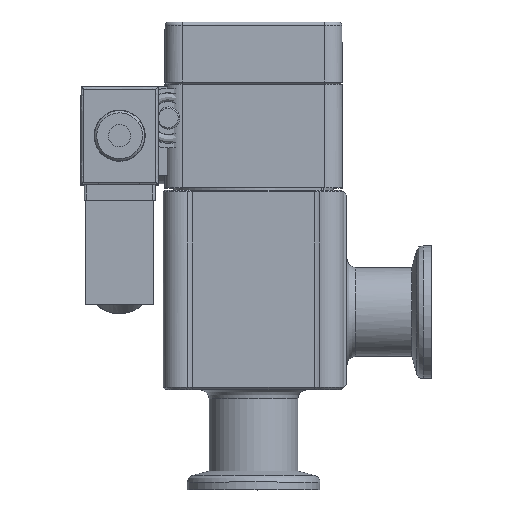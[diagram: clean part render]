
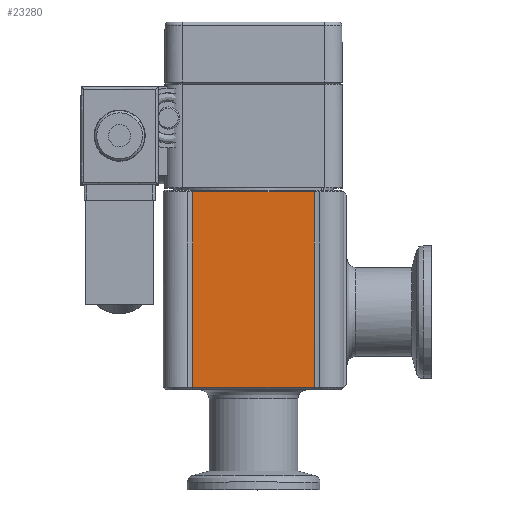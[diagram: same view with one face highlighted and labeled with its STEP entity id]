
A CAD part, top view. The second image highlights one B-rep face of the part: STEP entity #23280.
In plain terms, the highlighted free-form (B-spline) face has degree [1, 1] with [2, 2] control points.
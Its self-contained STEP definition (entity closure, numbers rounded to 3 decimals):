
#22628=CARTESIAN_POINT('V41',(-13.657,20.0,20.0));
#22629=VERTEX_POINT('V41',#22628);
#22652=CARTESIAN_POINT('V44',(-13.657,64.0,20.0));
#22653=VERTEX_POINT('V44',#22652);
#22667=CARTESIAN_POINT('E63',(-13.657,64.,
   20.));
#22668=CARTESIAN_POINT('E63',(-13.657,20.,
   20.));
#22669=B_SPLINE_CURVE_WITH_KNOTS('E63',1,(#22667,#22668),
   .POLYLINE_FORM.,.F.,.U.,(2,2),(2.314,
   36.866),.UNSPECIFIED.);
#22670=EDGE_CURVE('E63',#22653,#22629,#22669,.T.);
#23192=CARTESIAN_POINT('V43',(13.657,64.0,
   20.));
#23193=VERTEX_POINT('V43',#23192);
#23245=CARTESIAN_POINT('E62',(13.657,64.0,
   20.));
#23246=CARTESIAN_POINT('E62',(-13.657,64.0,20.0));
#23247=B_SPLINE_CURVE_WITH_KNOTS('E62',1,(#23245,#23246),
   .POLYLINE_FORM.,.F.,.U.,(2,2),(2.,
   50.285),.UNSPECIFIED.);
#23248=EDGE_CURVE('E62',#23193,#22653,#23247,.T.);
#23259=CARTESIAN_POINT('F27',(-14.422,18.5,
   20.));
#23260=CARTESIAN_POINT('F27',(14.422,18.5,
   20.));
#23261=CARTESIAN_POINT('F27',(-14.422,67.9,
   20.));
#23262=CARTESIAN_POINT('F27',(14.422,67.9,
   20.));
#23263=B_SPLINE_SURFACE_WITH_KNOTS('F27',1,1,((#23259,#23261),(
   #23260,#23262)),.PLANE_SURF.,.F.,.F.,.U.,(2,2),(2,2),(0.0,1.0),
   (0.745,2.458),.UNSPECIFIED.);
#23264=CARTESIAN_POINT('V42',(13.657,20.,
   20.));
#23265=VERTEX_POINT('V42',#23264);
#23266=CARTESIAN_POINT('E60',(-13.657,20.0,
   20.));
#23267=CARTESIAN_POINT('E60',(13.657,20.,
   20.));
#23268=B_SPLINE_CURVE_WITH_KNOTS('E60',1,(#23266,#23267),
   .POLYLINE_FORM.,.F.,.U.,(2,2),(2.0,40.628),
   .UNSPECIFIED.);
#23269=EDGE_CURVE('E60',#22629,#23265,#23268,.T.);
#23270=ORIENTED_EDGE('E60',*,*,#23269,.F.);
#23271=ORIENTED_EDGE('F59',*,*,#22670,.F.);
#23272=ORIENTED_EDGE('E62',*,*,#23248,.F.);
#23273=CARTESIAN_POINT('E61',(13.657,20.,
   20.));
#23274=CARTESIAN_POINT('E61',(13.657,64.0,
   20.));
#23275=B_SPLINE_CURVE_WITH_KNOTS('E61',1,(#23273,#23274),
   .POLYLINE_FORM.,.F.,.U.,(2,2),(2.393,
   36.945),.UNSPECIFIED.);
#23276=EDGE_CURVE('E61',#23265,#23193,#23275,.T.);
#23277=ORIENTED_EDGE('E61',*,*,#23276,.F.);
#23278=EDGE_LOOP('F27',(#23270,#23271,#23272,#23277));
#23279=FACE_OUTER_BOUND('F27',#23278,.F.);
#23280=ADVANCED_FACE('F27',(#23279),#23263,.T.);
